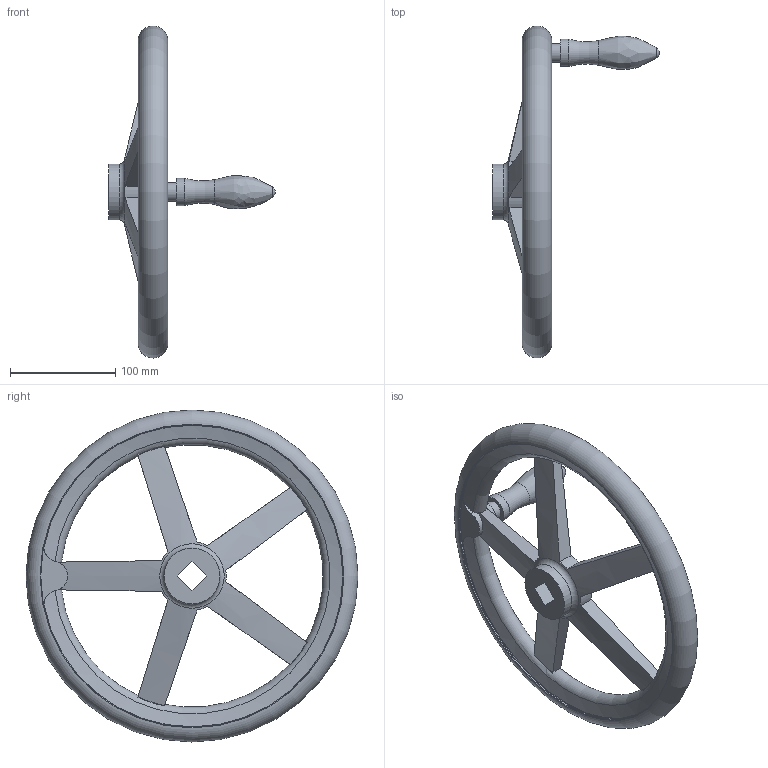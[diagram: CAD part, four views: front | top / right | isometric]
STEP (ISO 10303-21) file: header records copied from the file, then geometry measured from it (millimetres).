
FILE_DESCRIPTION( ( 'STEP AP203' ), '1' );
FILE_NAME( 'C:/Temp/Ganter_Step_05_03_2020/data/1_3/din_950/din_950_v/din_950_v_d/Handwheel DIN 950-AL-315-V19-D.stp', '2020-03-05T10:31:41', ( 'License CC BY-ND 4.0' ), ( 'CADENAS' ), ' ', 'PARTsolutions', ' ' );
FILE_SCHEMA( ( 'CONFIG_CONTROL_DESIGN' ) );
Length unit declared in the file: millimetre
Products named in the file (1): _Handwheel DIN 950-AL-315-V19-D
Bounding box: 158 x 315 x 315 mm (x, y, z)
Volume: 867277.7 mm3; surface area: 144477.6 mm2
Topology: 1 solids, 1 shells, 63 faces, 186 edges, 120 vertices
Faces by surface type: torus 21, plane 19, cylinder 17, cone 4, bspline 1, sphere 1
Full cylindrical faces by diameter (mm): 18 x1, 26 x1, 53 x2, 287 x2
Entity records: 2614 total; most frequent: CARTESIAN_POINT 1064, ORIENTED_EDGE 324, DIRECTION 280, EDGE_CURVE 162, AXIS2_PLACEMENT_3D 127, VERTEX_POINT 116, EDGE_LOOP 88, FACE_OUTER_BOUND 78
